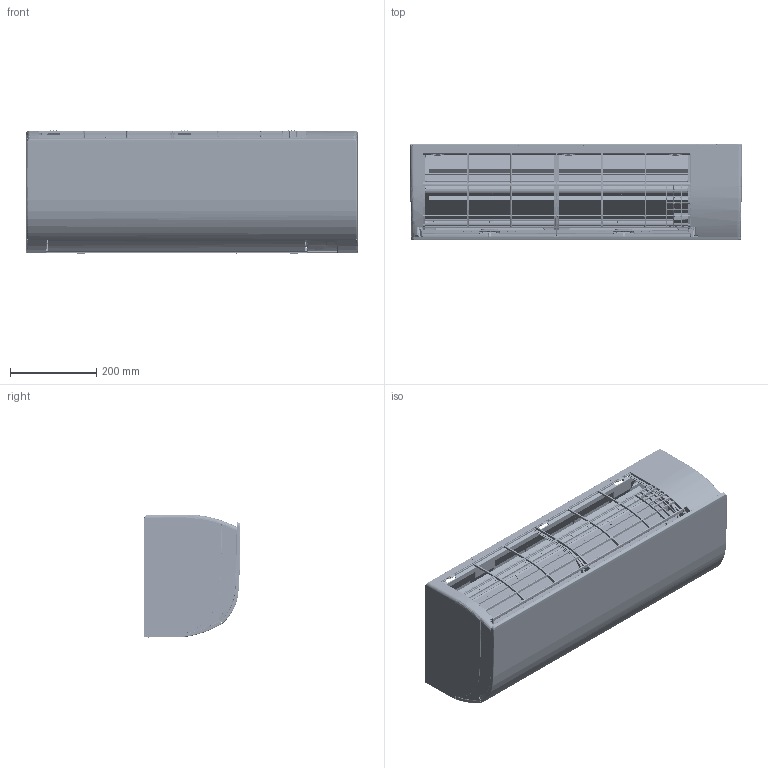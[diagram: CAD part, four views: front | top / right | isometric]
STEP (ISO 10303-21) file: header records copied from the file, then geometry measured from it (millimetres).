
FILE_DESCRIPTION( ( 'Unknown' ), '1' );
FILE_NAME( 'C:/LDM_WORK/l-vitek/EXPORT/171025-bms-indoor-top.stp', 'Unknown', ( 'Unknown' ), ( 'Unknown' ), 'PSStep 14.0', 'Unknown', ' ' );
FILE_SCHEMA( ( 'AUTOMOTIVE_DESIGN { 1 0 10303 214 1 1 1 1 }' ) );
Length unit declared in the file: millimetre
Products named in the file (31): cad01151-he-core-sub-2-dicz-oa3; cad00479-he-bms-hojo-cor-1-4; cad01151-he-core-sub-dicz-oa5; cad00479-he-bms-hojo-cor-1-4-oa4; cad01151-drp-bms-air-outlet-assy-dicz; cad01162-drain_pan_dicz; cad01151-dgbl-bms-ver-brade-ittai-dicz; cad01151-dgbl-bms-ver-brade-ittai-dicz-oa0; cad01151-bms-fan-guard-assy-2-dicz; cad00479-rep-bms-fan-guard-kousen-2; cad01151-bms-fan-guard-r2-dicz; cad01151-bms-fan-guard-l2-dicz; cad01151-bms-fan-guard-c2-dicz; cad01151-he-he-bms-cor-assy-fai5-dicz-oa6; cad00479-he-bms-cor-fai5; cad00479-pl-bms-top_sealing_plate-dsz; cad01151-dgbl-bms-hol-flap-assy-dicz-oa1; cad01151-dgbl-bms-hol-flap-dicz; cad01151-bms-bottom-frame-assy-dicz-oa2; cad01151-bf-bms-ittai-dicz-auto; cad01151-he-core_assy-28-dicz-oa7; cad01151-front-grille-assy-bms-dicz-oa8; cad01151-bms-front-panel-dicz-v2; cad01151-front-grille-bms-dicz; cad01151-dicz-bms-indoor-top-oa9; Assem1; cad01151-bms-indication-label
Assembly tree (33 placements, depth 6):
  Assem1
    cad01151-bms-indication-label
    cad01151-dicz-bms-indoor-top-oa9
      cad01151-bms-bottom-frame-assy-dicz-oa2
        cad01151-bf-bms-ittai-dicz-auto
        cad01151-drp-bms-air-outlet-assy-dicz
          cad01162-drain_pan_dicz
          cad01151-dgbl-bms-ver-brade-ittai-dicz
          cad01151-dgbl-bms-ver-brade-ittai-dicz-oa0
        cad01151-bms-fan-guard-assy-2-dicz  x2
          cad00479-rep-bms-fan-guard-kousen-2
          cad00479-rep-bms-fan-guard-kousen-2
          cad00479-rep-bms-fan-guard-kousen-2
          cad00479-rep-bms-fan-guard-kousen-2
          cad00479-rep-bms-fan-guard-kousen-2
          cad01151-bms-fan-guard-r2-dicz
          cad01151-bms-fan-guard-l2-dicz
          cad01151-bms-fan-guard-c2-dicz
        cad01151-dgbl-bms-hol-flap-assy-dicz-oa1
          cad01151-dgbl-bms-hol-flap-dicz
      cad01151-he-core_assy-28-dicz-oa7
        cad01151-he-he-bms-cor-assy-fai5-dicz-oa6
          cad00479-he-bms-cor-fai5
          cad00479-pl-bms-top_sealing_plate-dsz
          cad01151-he-core-sub-2-dicz-oa3
            cad00479-he-bms-hojo-cor-1-4
          cad01151-he-core-sub-dicz-oa5
            cad00479-he-bms-hojo-cor-1-4-oa4
      cad01151-front-grille-assy-bms-dicz-oa8
        cad01151-bms-front-panel-dicz-v2
        cad01151-front-grille-bms-dicz
Bounding box: 769.99 x 223.25 x 286 mm (x, y, z)
Volume: 8013653.3 mm3; surface area: 3867524.4 mm2
Topology: 32 solids, 33 shells, 19287 faces, 50036 edges, 30432 vertices
Faces by surface type: cylinder 6812, plane 5869, bspline 4238, torus 947, cone 918, sphere 465, extrusion 36, offset 2
Full cylindrical faces by diameter (mm): 1.6 x10, 2 x2, 3.3 x5, 3.35 x10, 3.5 x1, 4.5 x1, 5 x1, 5.2 x44, 6 x8, 7.4 x2
Entity records: 848376 total; most frequent: CARTESIAN_POINT 290264, ORIENTED_EDGE 90816, DIRECTION 84375, EDGE_CURVE 45408, AXIS2_PLACEMENT_3D 31604, VERTEX_POINT 27907, VECTOR 21167, LINE 21131
